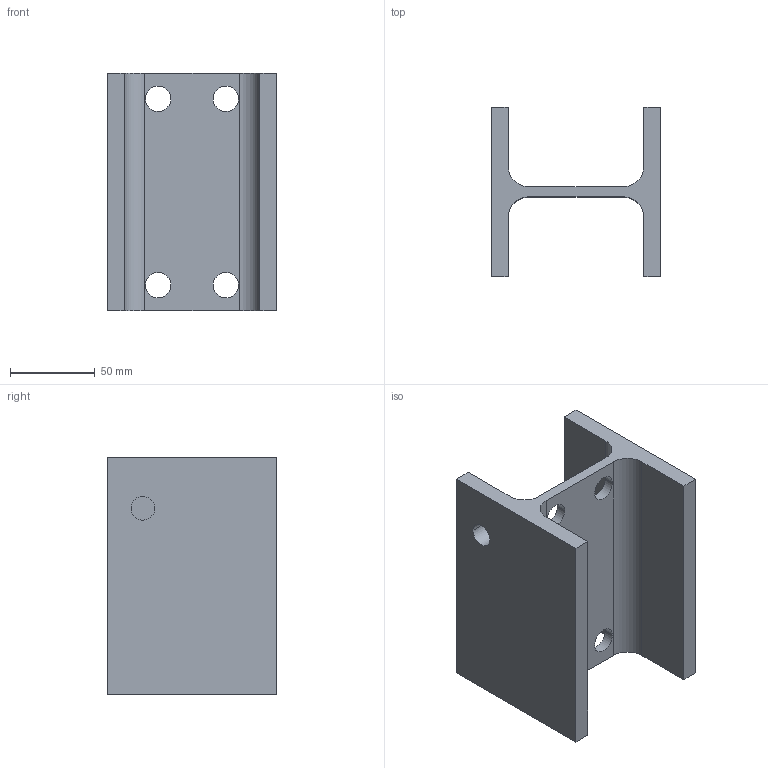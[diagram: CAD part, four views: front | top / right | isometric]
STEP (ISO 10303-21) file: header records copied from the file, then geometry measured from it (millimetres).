
FILE_DESCRIPTION (( 'STEP AP214' ), '1' );
FILE_NAME ('CCJ029-REP.047 - INTERFACE POTEAU PLATEFORME-ESCALIER.STEP', '2025-02-13T07:47:40', ( '' ), ( '' ), 'SwSTEP 2.0', 'SolidWorks 2021', '' );
FILE_SCHEMA (( 'AUTOMOTIVE_DESIGN' ));
Length unit declared in the file: millimetre
Products named in the file (1): CCJ029-REP.047 - INTERFACE POTEAU PLATEFORME-ESCALIER
Bounding box: 100 x 100 x 140 mm (x, y, z)
Volume: 358658.9 mm3; surface area: 84587.5 mm2
Topology: 1 solids, 1 shells, 61 faces, 162 edges, 108 vertices
Faces by surface type: plane 38, cylinder 14, bspline 9
Entity records: 2660 total; most frequent: CARTESIAN_POINT 1117, ORIENTED_EDGE 324, DIRECTION 278, EDGE_CURVE 162, LINE 116, VECTOR 116, VERTEX_POINT 108, AXIS2_PLACEMENT_3D 81
